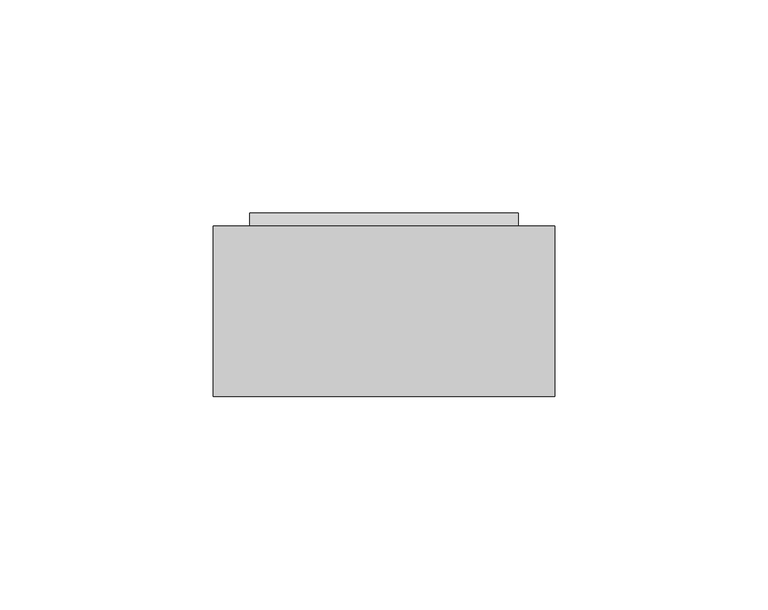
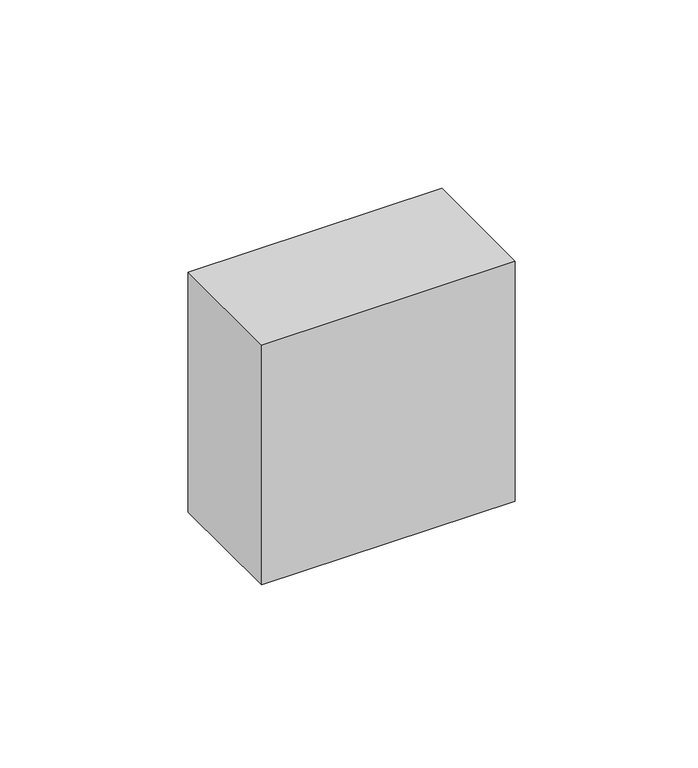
"""IFC4 building model written with IfcOpenShell, lengths in millimetres: switching device geometry, LD_В_П_ТЛ : В1_П1_IP54_ОУ_IEK_ВС20_10А."""

import ifcopenshell
import ifcopenshell.guid

model = None  # the IFC model being written
_history = None  # IfcOwnerHistory: only IFC2X3 demands one
_inside = {}  # id of a spatial element -> (the spatial element, [elements in it])
_under = {}  # id of a project, library or spatial element -> (it, [spatial elements below it])
_declared = {}  # id of a project -> (the project, [libraries it declares])
_typed = {}  # id of a type object -> (the type object, [elements of that type])
_made_of = {}  # id of a material, layer set ... -> (it, [elements and type objects made of it])


def new_model(schema):
    """Start an empty IFC model of exactly this schema.

    Asked for "IFC4X3", IfcOpenShell would pick the latest addendum, in which some entities
    have other attributes; the version numbers below select the first issue.
    IFC2X3 requires an IfcOwnerHistory on every rooted entity: one is made here for all.
    """
    global model, _history
    if schema == "IFC4X3":
        model = ifcopenshell.file(schema_version=(4, 3, 0, 0))
    else:
        model = ifcopenshell.file(schema=schema)
    _inside.clear()
    _under.clear()
    _declared.clear()
    _typed.clear()
    _made_of.clear()
    _history = None
    if model.schema == "IFC2X3":
        org = make("IfcOrganization", Name="unknown")
        user = make(
            "IfcPersonAndOrganization",
            ThePerson=make("IfcPerson", FamilyName="unknown"),
            TheOrganization=org,
        )
        app = make(
            "IfcApplication",
            ApplicationDeveloper=org,
            Version="unknown",
            ApplicationFullName="unknown",
            ApplicationIdentifier="unknown",
        )
        _history = make(
            "IfcOwnerHistory",
            OwningUser=user,
            OwningApplication=app,
            ChangeAction="ADDED",
            CreationDate=0,
        )
    return model


def make(cls, **values):
    """One entity of the class cls with the attributes given. An attribute that is None is left unset."""
    return model.create_entity(
        cls, **{name: value for name, value in values.items() if value is not None}
    )


def rooted(cls, **values):
    """An entity with a GlobalId (a new one), such as an element, a storey or a relation."""
    return make(cls, GlobalId=ifcopenshell.guid.new(), OwnerHistory=_history, **values)


def si_unit(unit_type, name, prefix=None):
    """IfcSIUnit, for example si_unit("LENGTHUNIT", "METRE", prefix="MILLI")."""
    return make("IfcSIUnit", UnitType=unit_type, Prefix=prefix, Name=name)


def assignment(units):
    """IfcUnitAssignment: the units of a project."""
    return None if units is None else make("IfcUnitAssignment", Units=units)


def point(xyz):
    """IfcCartesianPoint."""
    return None if xyz is None else make("IfcCartesianPoint", Coordinates=xyz)


def direction(xyz):
    """IfcDirection."""
    return None if xyz is None else make("IfcDirection", DirectionRatios=xyz)


def frame(location, z_axis=None, x_axis=None):
    """IfcAxis2Placement3D, a coordinate frame: its origin and axes. An axis left out is left unset."""
    return make(
        "IfcAxis2Placement3D",
        Location=point(location),
        Axis=direction(z_axis),
        RefDirection=direction(x_axis),
    )


def origin():
    """The frame at (0, 0, 0) with its axes left unset."""
    return frame((0.0, 0.0, 0.0))


def place(relative_to, where):
    """IfcLocalPlacement: puts the frame where relative to a parent placement (None: the world)."""
    return make(
        "IfcLocalPlacement", PlacementRelTo=relative_to, RelativePlacement=where
    )


def context(
    kind, dimensions, precision=None, world=None, true_north=None, identifier=None
):
    """IfcGeometricRepresentationContext, for example the 3D "Model" context."""
    return make(
        "IfcGeometricRepresentationContext",
        ContextIdentifier=identifier,
        ContextType=kind,
        CoordinateSpaceDimension=dimensions,
        Precision=precision,
        WorldCoordinateSystem=world,
        TrueNorth=true_north,
    )


def project(units=None, contexts=None):
    """IfcProject with its units and contexts."""
    return rooted(
        "IfcProject",
        Name="project",
        RepresentationContexts=contexts,
        UnitsInContext=assignment(units),
    )


def spatial(cls, under=None, at=None, **own):
    """A site, building, storey or space (cls), placed at a placement, below another one or the project."""
    s = rooted(cls, ObjectPlacement=at, **own)
    if under is not None:
        _under.setdefault(under.id(), (under, []))[1].append(s)
    return s


def polyline(points):
    """IfcPolyline through the points."""
    return make("IfcPolyline", Points=[point(p) for p in points])


def outline(outer, holes=None, kind="AREA"):
    """IfcArbitraryClosedProfileDef: a profile drawn as a closed curve; with holes, ...WithVoids."""
    if holes is None:
        return make("IfcArbitraryClosedProfileDef", ProfileType=kind, OuterCurve=outer)
    return make(
        "IfcArbitraryProfileDefWithVoids",
        ProfileType=kind,
        OuterCurve=outer,
        InnerCurves=holes,
    )


def extrude(swept, where, along, depth):
    """IfcExtrudedAreaSolid: the profile swept, set in the frame where, extruded along a direction by depth."""
    return make(
        "IfcExtrudedAreaSolid",
        SweptArea=swept,
        Position=where,
        ExtrudedDirection=direction(along),
        Depth=depth,
    )


def shape(context_of_items, identifier, shape_type, items):
    """IfcShapeRepresentation: the items that make up one representation, for example the "Body"."""
    return make(
        "IfcShapeRepresentation",
        ContextOfItems=context_of_items,
        RepresentationIdentifier=identifier,
        RepresentationType=shape_type,
        Items=items,
    )


def source(mapping_origin, context_of_items, identifier, shape_type, items):
    """IfcRepresentationMap: a shape defined once, which mapped items show again and again."""
    return make(
        "IfcRepresentationMap",
        MappingOrigin=mapping_origin,
        MappedRepresentation=shape(context_of_items, identifier, shape_type, items),
    )


def transform(
    local_origin,
    x_axis=None,
    y_axis=None,
    z_axis=None,
    scale=None,
    scale2=None,
    scale3=None,
    uniform=True,
):
    """IfcCartesianTransformationOperator3D, or its non-uniform kind. x_axis, y_axis, z_axis: its Axis1, 2, 3."""
    if uniform:
        return make(
            "IfcCartesianTransformationOperator3D",
            Axis1=direction(x_axis),
            Axis2=direction(y_axis),
            LocalOrigin=point(local_origin),
            Scale=scale,
            Axis3=direction(z_axis),
        )
    return make(
        "IfcCartesianTransformationOperator3DnonUniform",
        Axis1=direction(x_axis),
        Axis2=direction(y_axis),
        LocalOrigin=point(local_origin),
        Scale=scale,
        Axis3=direction(z_axis),
        Scale2=scale2,
        Scale3=scale3,
    )


def mapped(mapping_source, mapping_target):
    """IfcMappedItem: shows the shape of a source again, moved by a transform."""
    return make(
        "IfcMappedItem", MappingSource=mapping_source, MappingTarget=mapping_target
    )


def made_of(thing, what):
    """Note that an element or type object is made of a material, layer set ...; save() writes the relation."""
    if what is not None:
        _made_of.setdefault(what.id(), (what, []))[1].append(thing)
    return thing


def element(
    cls,
    number,
    at=None,
    inside=None,
    cuts=None,
    type_object=None,
    material=None,
    context=None,
    identifier="Body",
    shape_type=None,
    held_by="IfcProductDefinitionShape",
    body=None,
    shapes=None,
    **own,
):
    """One element of the class cls, such as IfcWall. Its Tag is "e" and its number.

    at: its placement. inside: the storey or other place that contains it. cuts: it is an
    opening in that element (IfcRelVoidsElement). A single representation is given by context,
    identifier, shape_type and body (its items); several are given by shapes. held_by: the class
    of the entity that holds the representations. save() writes the other relations.
    """
    e = rooted(cls, Tag="e%d" % number, ObjectPlacement=at, **own)
    if body is not None:
        shapes = [shape(context, identifier, shape_type, body)]
    if shapes is not None:
        e.Representation = make(held_by, Representations=shapes)
    if inside is not None:
        _inside.setdefault(inside.id(), (inside, []))[1].append(e)
    if cuts is not None:
        rooted(
            "IfcRelVoidsElement", RelatingBuildingElement=cuts, RelatedOpeningElement=e
        )
    if type_object is not None:
        _typed.setdefault(type_object.id(), (type_object, []))[1].append(e)
    return made_of(e, material)


def aggregate(whole, parts):
    """IfcRelAggregates: a whole, such as a stair, and the parts it consists of."""
    return rooted("IfcRelAggregates", RelatingObject=whole, RelatedObjects=parts)


def save(model, path):
    """Write the relations noted so far, then the file.

    IfcRelAggregates (storeys below a building ...), IfcRelContainedInSpatialStructure (elements
    in a storey), IfcRelDefinesByType, IfcRelAssociatesMaterial and IfcRelDeclares: one each for
    every whole, place, type object, material and project.
    """
    for whole, parts in _under.values():
        aggregate(whole, parts)
    for where, things in _inside.values():
        rooted(
            "IfcRelContainedInSpatialStructure",
            RelatedElements=things,
            RelatingStructure=where,
        )
    for kind, things in _typed.values():
        rooted("IfcRelDefinesByType", RelatedObjects=things, RelatingType=kind)
    for what, things in _made_of.values():
        rooted("IfcRelAssociatesMaterial", RelatedObjects=things, RelatingMaterial=what)
    for by, libraries in _declared.values():
        rooted("IfcRelDeclares", RelatingContext=by, RelatedDefinitions=libraries)
    model.write(path)


def switching_device_7e4b18a8(model_context):
    return source(origin(), model_context, "Body", "SweptSolid", [
        extrude(outline(polyline([(40.0, 33.5), (43.0, 30.5), (40.0, -33.5), (40.0, 33.5)])), frame((-31.5, 0.0, 0.0), z_axis=(1.0, 0.0, 0.0), x_axis=(0.0, 1.0, 0.0)), (0.0, 0.0, 1.0), 63.0),
        extrude(outline(polyline([(40.0, 0.0), (-40.0, 0.0), (-40.0, 40.0), (40.0, 40.0), (40.0, 0.0)])), frame((0.0, 0.0, -40.0), z_axis=(0.0, 0.0, 1.0), x_axis=(1.0, 0.0, 0.0)), (0.0, 0.0, 1.0), 80.0),
    ])


if __name__ == "__main__":
    model = new_model("IFC4")
    model_context = context("Model", 3, world=origin())
    ifc_project = project(units=[si_unit("LENGTHUNIT", "METRE", prefix="MILLI")], contexts=[model_context])
    site = spatial("IfcSite", under=ifc_project)
    building = spatial("IfcBuilding", under=site)
    placement = place(None, origin())
    switching_device_shape = switching_device_7e4b18a8(model_context)
    element("IfcSwitchingDevice", 1, ObjectType="LD_В_П_ТЛ : В1_П1_IP54_ОУ_IEK_ВС20_10А", at=placement, inside=building, context=model_context, shape_type="MappedRepresentation", body=[
        mapped(switching_device_shape, transform((0.0, 0.0, 0.0), x_axis=(1.0, 0.0, 0.0), y_axis=(0.0, 1.0, 0.0), z_axis=(0.0, 0.0, 1.0))),
    ])
    save(model, "model.ifc")
